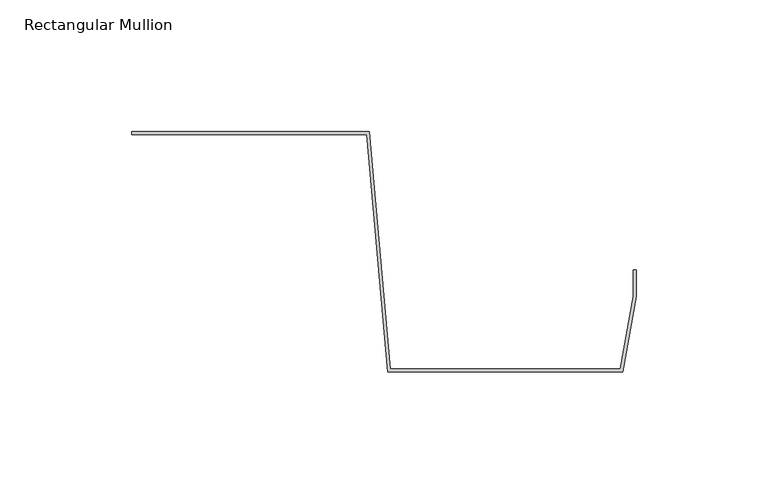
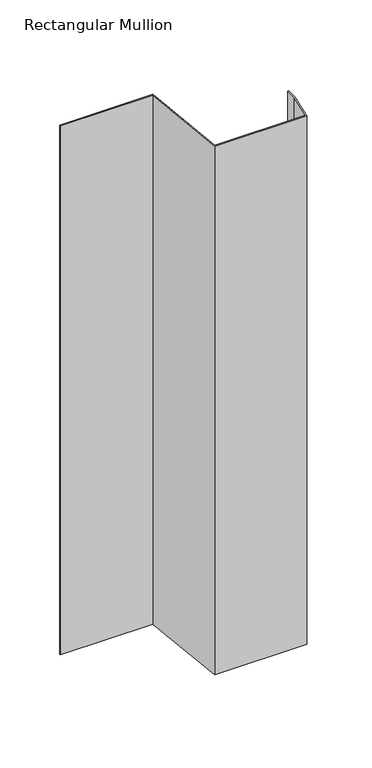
"""IFC4 building model written with IfcOpenShell, lengths in millimetres: member geometry, Rectangular Mullion : CD_NINELINE_Box End."""

from ifc_helpers import new_model, si_unit, frame, origin, place, context, project, spatial, polyline, outline, extrude, source, transform, mapped, element, save


def rectangular_mullion_5f9ddbf5(model_context):
    return source(origin(), model_context, "Body", "SweptSolid", [
        extrude(outline(polyline([(-191.0780283, 0.0), (-101.1693243, 0.0), (-93.1693243, -90.0), (-5.9127704, -90.0), (-1.006169, -62.3975992), (-1.006169, -52.3975992), (0.0, -52.3975992), (0.0, -62.4510836), (-5.0812033, -91.0357186), (-94.0812033, -91.0357186), (-102.0843783, -1.0), (-191.0780283, -1.0), (-191.0780283, 0.0)])), frame((0.0, 0.0, -540.0), z_axis=(0.0, 0.0, 1.0), x_axis=(1.0, 0.0, 0.0)), (0.0, 0.0, 1.0), 540.0),
    ])


if __name__ == "__main__":
    model = new_model("IFC4")
    model_context = context("Model", 3, world=origin())
    ifc_project = project(units=[si_unit("LENGTHUNIT", "METRE", prefix="MILLI")], contexts=[model_context])
    site = spatial("IfcSite", under=ifc_project)
    building = spatial("IfcBuilding", under=site)
    placement = place(None, origin())
    rectangular_mullion_shape = rectangular_mullion_5f9ddbf5(model_context)
    element("IfcMember", 1, ObjectType="Rectangular Mullion : CD_NINELINE_Box End", at=placement, inside=building, context=model_context, shape_type="MappedRepresentation", body=[
        mapped(rectangular_mullion_shape, transform((0.0, 0.0, 0.0), x_axis=(1.0, 0.0, 0.0), y_axis=(0.0, 1.0, 0.0), z_axis=(0.0, 0.0, 1.0))),
    ])
    save(model, "model.ifc")
